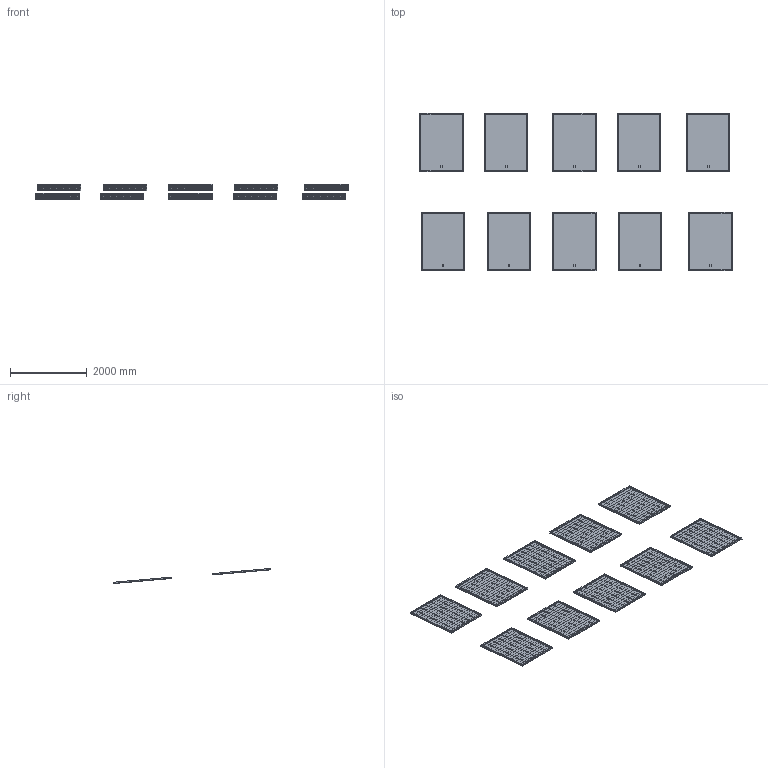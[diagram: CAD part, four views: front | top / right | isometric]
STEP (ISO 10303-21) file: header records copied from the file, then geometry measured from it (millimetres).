
FILE_DESCRIPTION (( 'STEP AP203' ), '1' );
FILE_NAME ('NEW PROJECT-SOLAR PANEL.STEP', '2025-10-06T07:56:45', ( '' ), ( '' ), 'SwSTEP 2.0', 'SolidWorks 2025', '' );
FILE_SCHEMA (( 'CONFIG_CONTROL_DESIGN' ));
Products named in the file (1): NEW PROJECT-SOLAR PANEL
Bounding box: 8146.56 x 4106.65 x 393.89 mm (x, y, z)
Volume: 93352608 mm3; surface area: 38238447 mm2
Topology: 10 solids, 10 shells, 6930 faces, 17760 edges, 11840 vertices
Faces by surface type: plane 6930
Entity records: 205521 total; most frequent: CARTESIAN_POINT 36531, ORIENTED_EDGE 35520, DIRECTION 31622, VECTOR 17760, EDGE_CURVE 17760, LINE 17760, VERTEX_POINT 11840, EDGE_LOOP 7920
